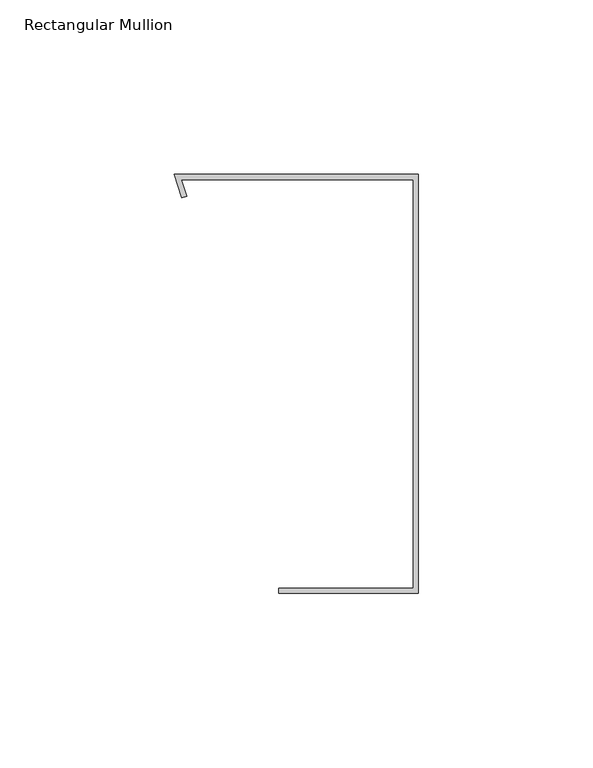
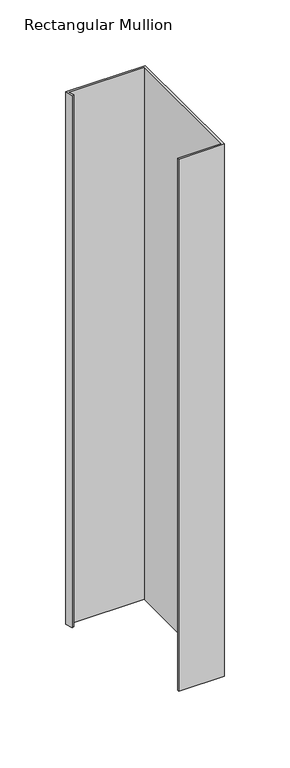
"""IFC4 building model written with IfcOpenShell, lengths in millimetres: member geometry, Rectangular Mullion : Danpal_VRS_Top-Mullion."""

from ifc_helpers import new_model, si_unit, frame, origin, place, context, project, spatial, polyline, outline, extrude, source, transform, mapped, element, save


def rectangular_mullion_cf001a00(model_context):
    return source(origin(), model_context, "Body", "SweptSolid", [
        extrude(outline(polyline([(-67.9638912, 5.7223798), (-66.4665939, 0.9446924), (-67.8977574, 0.494831), (-70.0067967, 7.22451), (-0.0067968, 7.2284689), (0.0, -112.9511841), (-39.9999999, -112.9534463), (-40.0000849, -111.4512007), (-1.500085, -111.4490233), (-1.5067119, 5.7261384), (-67.9638912, 5.7223798)])), frame((0.0, 0.0, -495.0), z_axis=(0.0, 0.0, 1.0), x_axis=(1.0, 0.0, 0.0)), (0.0, 0.0, 1.0), 495.0),
    ])


if __name__ == "__main__":
    model = new_model("IFC4")
    model_context = context("Model", 3, world=origin())
    ifc_project = project(units=[si_unit("LENGTHUNIT", "METRE", prefix="MILLI")], contexts=[model_context])
    site = spatial("IfcSite", under=ifc_project)
    building = spatial("IfcBuilding", under=site)
    placement = place(None, origin())
    rectangular_mullion_shape = rectangular_mullion_cf001a00(model_context)
    element("IfcMember", 1, ObjectType="Rectangular Mullion : Danpal_VRS_Top-Mullion", at=placement, inside=building, context=model_context, shape_type="MappedRepresentation", body=[
        mapped(rectangular_mullion_shape, transform((0.0, 0.0, 0.0), x_axis=(1.0, 0.0, 0.0), y_axis=(0.0, 1.0, 0.0), z_axis=(0.0, 0.0, 1.0))),
    ])
    save(model, "model.ifc")
